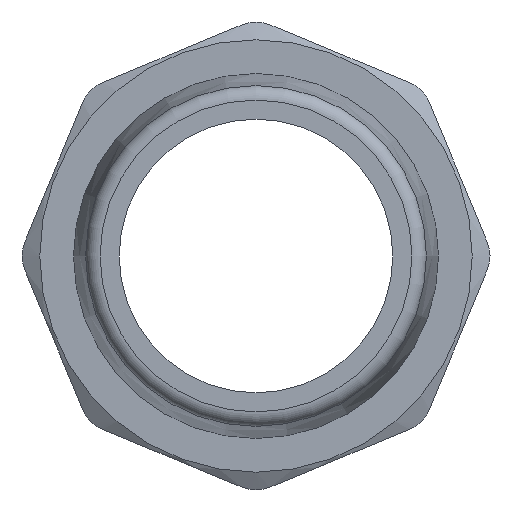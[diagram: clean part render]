
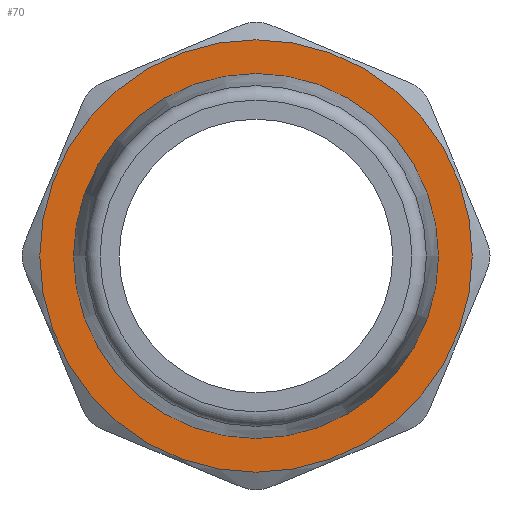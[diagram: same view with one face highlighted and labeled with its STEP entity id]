
A CAD part, front view. The second image highlights one B-rep face of the part: STEP entity #70.
In plain terms, the highlighted planar face has unit normal (0, -1, 0).
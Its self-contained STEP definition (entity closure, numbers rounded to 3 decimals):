
#70=ADVANCED_FACE('',(#283,#285),#287,.F.);
#283=FACE_BOUND('',#284,.T.);
#284=EDGE_LOOP('',(#500));
#285=FACE_BOUND('',#286,.T.);
#286=EDGE_LOOP('',(#501));
#287=PLANE('',#288);
#288=AXIS2_PLACEMENT_3D('',#289,#290,#291);
#289=CARTESIAN_POINT('',(0.,-15.,0.));
#290=DIRECTION('',(0.,1.,0.));
#291=DIRECTION('',(-1.,0.,0.));
#500=ORIENTED_EDGE('',*,*,#582,.T.);
#501=ORIENTED_EDGE('',*,*,#584,.F.);
#582=EDGE_CURVE('',#696,#696,#697,.F.);
#584=EDGE_CURVE('',#700,#700,#701,.T.);
#696=VERTEX_POINT('',#1940);
#697=CIRCLE('',#1941,11.85);
#700=VERTEX_POINT('',#1950);
#701=CIRCLE('',#1951,10.);
#1940=CARTESIAN_POINT('',(11.85,-15.,0.));
#1941=AXIS2_PLACEMENT_3D('',#1942,#1943,#1944);
#1942=CARTESIAN_POINT('',(0.,-15.,0.));
#1943=DIRECTION('',(0.,1.,0.));
#1944=DIRECTION('',(1.,0.,0.));
#1950=CARTESIAN_POINT('',(-10.,-15.,0.));
#1951=AXIS2_PLACEMENT_3D('',#1952,#1953,#1954);
#1952=CARTESIAN_POINT('',(0.,-15.,0.));
#1953=DIRECTION('',(0.,-1.,0.));
#1954=DIRECTION('',(-1.,0.,0.));
